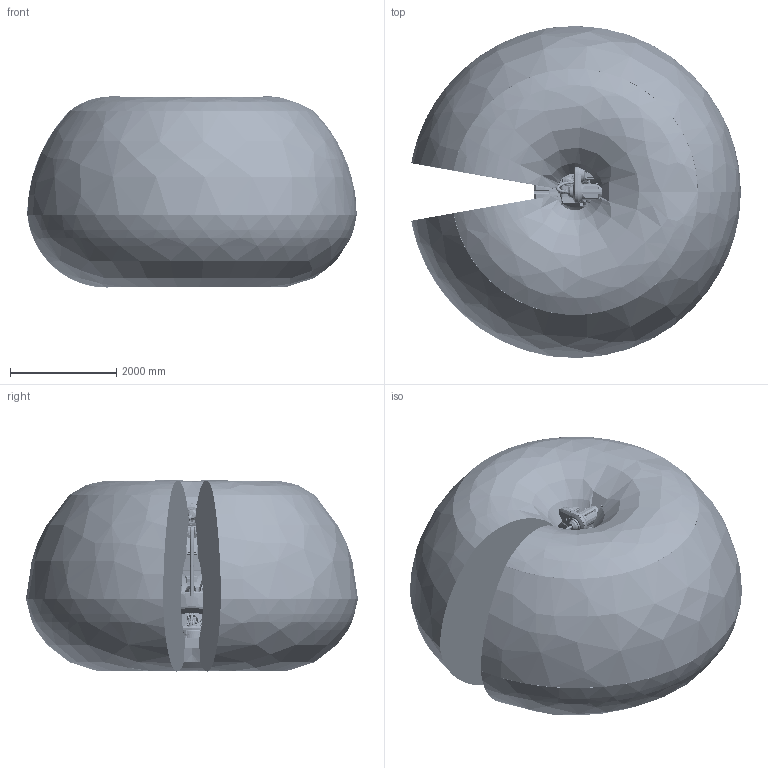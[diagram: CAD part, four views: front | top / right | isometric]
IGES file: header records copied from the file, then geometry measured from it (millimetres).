
Start section: SolidWorks IGES file using analytic representation for surfaces
Global section: file name: C:\Users\SEJAOLS6\OneDrive - ABB\Documents\SAP\7720\7720_Lightweight_models\IRB7720-LID-SW_480kg-310_OC_01_SW_J\IRB7720-LID-SW_480kg-310_OC_01_IGES_J\IRB7720-LID-SW_480kg-310_OC_01_ASM_CAD.igs; native system: SolidWorks 2024; preprocessor: SolidWorks 2024; author: SEJAOLS6; date: 260127.081243; units: millimetre
Bounding box: 6198.03 x 6245.16 x 3594.37 mm (x, y, z)
Surface area: 145820851.8 mm2 (no closed solid volume)
Topology: 0 solids, 0 shells, 10684 faces, 181922 edges, 181775 vertices
Faces by surface type: bspline 5928, revolution 4756
